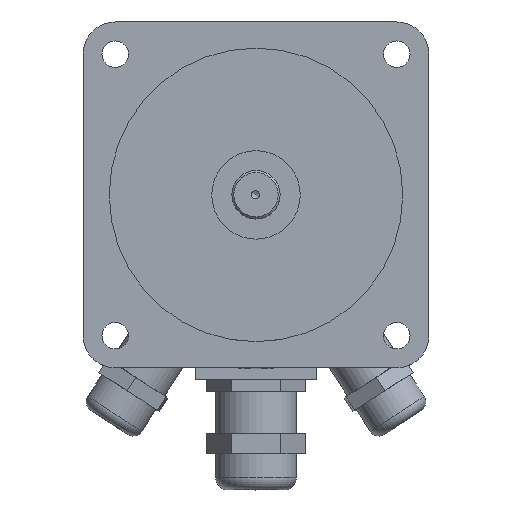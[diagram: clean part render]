
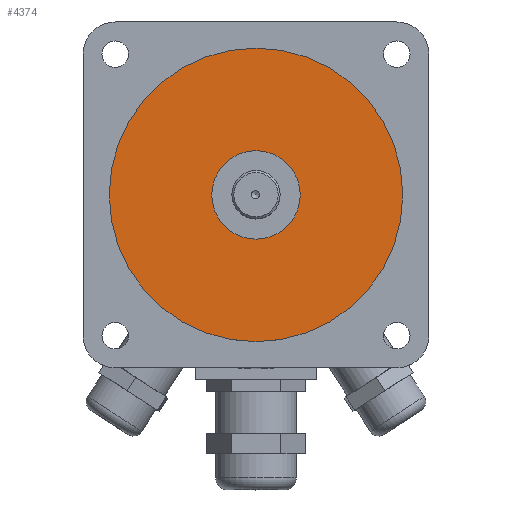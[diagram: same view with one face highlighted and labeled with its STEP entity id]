
A CAD part, top view. The second image highlights one B-rep face of the part: STEP entity #4374.
In plain terms, the highlighted planar face has unit normal (0, 0, 1).
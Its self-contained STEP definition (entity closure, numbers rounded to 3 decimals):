
#4347=CARTESIAN_POINT('',(-69.773,-89.811,149.505));
#4348=DIRECTION('',(0.0,0.0,-1.0));
#4349=DIRECTION('',(1.0,0.0,0.0));
#4350=AXIS2_PLACEMENT_3D('',#4347,#4348,#4349);
#4351=PLANE('',#4350);
#4352=CARTESIAN_POINT('',(-106.273,-89.811,149.505));
#4353=VERTEX_POINT('',#4352);
#4354=CARTESIAN_POINT('',(-69.773,-89.811,149.505));
#4355=DIRECTION('',(0.0,0.0,-1.0));
#4356=DIRECTION('',(1.0,0.0,0.0));
#4357=AXIS2_PLACEMENT_3D('',#4354,#4355,#4356);
#4358=CIRCLE('',#4357,36.5);
#4359=EDGE_CURVE('',#4353,#4353,#4358,.T.);
#4360=ORIENTED_EDGE('',*,*,#4359,.F.);
#4361=EDGE_LOOP('',(#4360));
#4362=FACE_OUTER_BOUND('',#4361,.T.);
#4363=CARTESIAN_POINT('',(-80.773,-89.811,149.505));
#4364=VERTEX_POINT('',#4363);
#4365=CARTESIAN_POINT('',(-69.773,-89.811,149.505));
#4366=DIRECTION('',(0.0,0.0,-1.0));
#4367=DIRECTION('',(1.0,0.0,0.0));
#4368=AXIS2_PLACEMENT_3D('',#4365,#4366,#4367);
#4369=CIRCLE('',#4368,11.0);
#4370=EDGE_CURVE('',#4364,#4364,#4369,.T.);
#4371=ORIENTED_EDGE('',*,*,#4370,.T.);
#4372=EDGE_LOOP('',(#4371));
#4373=FACE_BOUND('',#4372,.T.);
#4374=ADVANCED_FACE('',(#4362,#4373),#4351,.F.);
